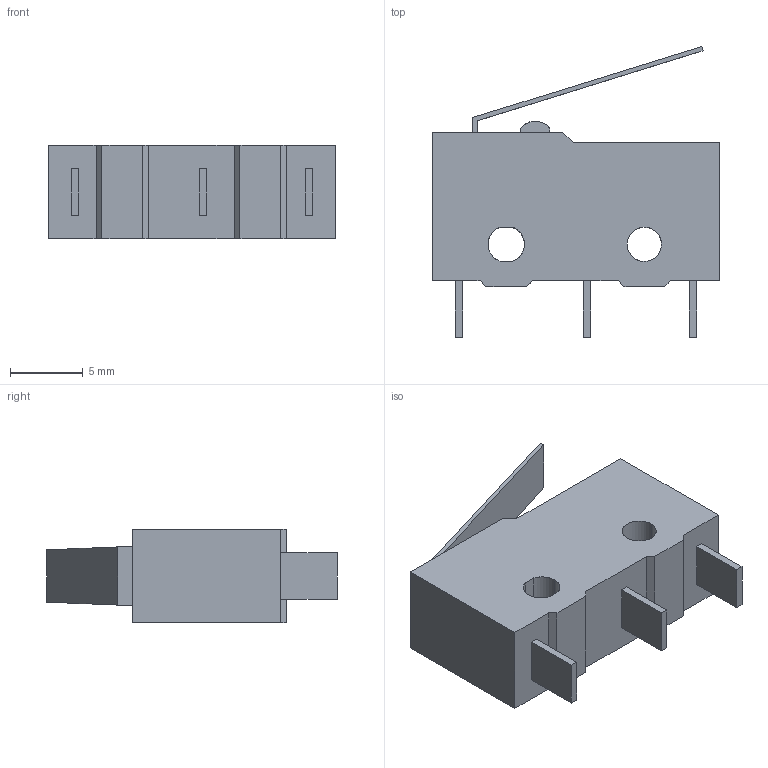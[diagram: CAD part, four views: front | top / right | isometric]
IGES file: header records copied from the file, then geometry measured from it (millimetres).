
Start section: OSMC1.0    IGES FILE using analytic representation for surfaces
Global section: file name: D:\OMRON\SS_01GL_E.igs; native system: SolidWorks 2001Plus by SolidWorks Corporation; preprocessor: Version 5.3; author: yamanouchi; date: 110220.015547; units: millimetre
Bounding box: 19.8 x 20 x 6.4 mm (x, y, z)
Surface area: 1095 mm2 (no closed solid volume)
Topology: 0 solids, 0 shells, 51 faces, 358 edges, 358 vertices
Faces by surface type: bspline 45, revolution 6
